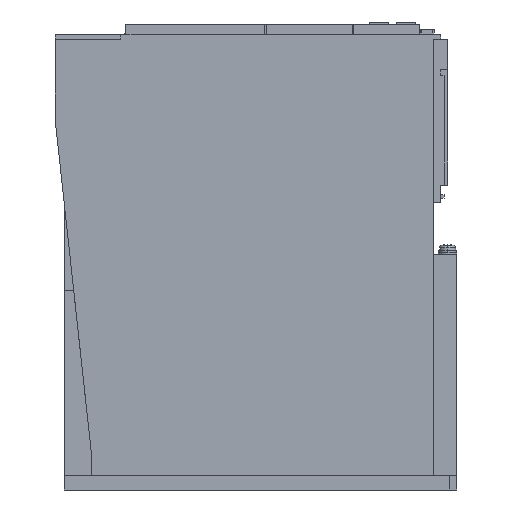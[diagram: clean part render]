
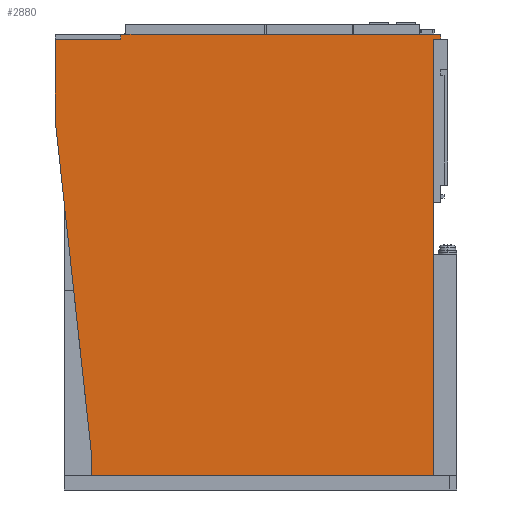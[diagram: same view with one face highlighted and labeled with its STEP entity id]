
A CAD part, left-side view. The second image highlights one B-rep face of the part: STEP entity #2880.
In plain terms, the highlighted planar face has unit normal (-1, 0, 0).
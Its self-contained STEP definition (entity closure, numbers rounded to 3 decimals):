
#1120=DIRECTION('',(0.,-1.,0.));
#1121=VECTOR('',#1120,146.5);
#1122=CARTESIAN_POINT('',(-45.,67.5,0.));
#1123=LINE('',#1122,#1121);
#1239=DIRECTION('',(0.,-1.,0.));
#1240=VECTOR('',#1239,28.2);
#1241=CARTESIAN_POINT('',(-45.,83.,186.9));
#1242=LINE('',#1241,#1240);
#1246=DIRECTION('',(0.,0.,-1.));
#1247=VECTOR('',#1246,2.1);
#1248=CARTESIAN_POINT('',(-45.,54.8,189.));
#1249=LINE('',#1248,#1247);
#1253=DIRECTION('',(0.,-1.,0.));
#1254=VECTOR('',#1253,136.8);
#1255=CARTESIAN_POINT('',(-45.,54.8,189.));
#1256=LINE('',#1255,#1254);
#1260=DIRECTION('',(0.,0.,1.));
#1261=VECTOR('',#1260,10.);
#1262=CARTESIAN_POINT('',(-45.,67.5,0.));
#1263=LINE('',#1262,#1261);
#1267=DIRECTION('',(0.,0.108,0.994));
#1268=VECTOR('',#1267,106.482);
#1269=CARTESIAN_POINT('',(-45.,67.5,10.));
#1270=LINE('',#1269,#1268);
#1274=DIRECTION('',(0.,-0.108,-0.994));
#1275=VECTOR('',#1274,37.057);
#1276=CARTESIAN_POINT('',(-45.,83.,152.7));
#1277=LINE('',#1276,#1275);
#1281=DIRECTION('',(0.,0.,-1.));
#1282=VECTOR('',#1281,34.2);
#1283=CARTESIAN_POINT('',(-45.,83.,186.9));
#1284=LINE('',#1283,#1282);
#2100=DIRECTION('',(0.,0.,1.));
#2101=VECTOR('',#2100,187.);
#2102=CARTESIAN_POINT('',(-45.,-79.,0.));
#2103=LINE('',#2102,#2101);
#2107=DIRECTION('',(0.,-1.,0.));
#2108=VECTOR('',#2107,3.);
#2109=CARTESIAN_POINT('',(-45.,-79.,187.));
#2110=LINE('',#2109,#2108);
#2240=DIRECTION('',(0.,0.,-1.));
#2241=VECTOR('',#2240,2.);
#2242=CARTESIAN_POINT('',(-45.,-82.,189.));
#2243=LINE('',#2242,#2241);
#2485=CARTESIAN_POINT('',(-45.,-79.,0.));
#2487=VERTEX_POINT('',#2485);
#2489=CARTESIAN_POINT('',(-45.,67.5,0.));
#2490=CARTESIAN_POINT('',(-45.,67.5,10.));
#2491=VERTEX_POINT('',#2489);
#2492=VERTEX_POINT('',#2490);
#2493=CARTESIAN_POINT('',(-45.,79.,115.859));
#2494=VERTEX_POINT('',#2493);
#2505=CARTESIAN_POINT('',(-45.,54.8,189.));
#2507=VERTEX_POINT('',#2505);
#2509=CARTESIAN_POINT('',(-45.,83.,186.9));
#2510=CARTESIAN_POINT('',(-45.,54.8,186.9));
#2511=VERTEX_POINT('',#2509);
#2512=VERTEX_POINT('',#2510);
#2529=CARTESIAN_POINT('',(-45.,83.,152.7));
#2530=VERTEX_POINT('',#2529);
#2659=CARTESIAN_POINT('',(-45.,-82.,189.));
#2660=CARTESIAN_POINT('',(-45.,-82.,187.));
#2661=VERTEX_POINT('',#2659);
#2662=VERTEX_POINT('',#2660);
#2663=CARTESIAN_POINT('',(-45.,-79.,187.));
#2665=VERTEX_POINT('',#2663);
#2853=CARTESIAN_POINT('',(-45.,79.,0.));
#2854=DIRECTION('',(-1.,0.,0.));
#2855=DIRECTION('',(0.,-1.,0.));
#2856=AXIS2_PLACEMENT_3D('',#2853,#2854,#2855);
#2857=PLANE('',#2856);
#2858=ORIENTED_EDGE('',*,*,#2835,.T.);
#2860=ORIENTED_EDGE('',*,*,#2859,.F.);
#2862=ORIENTED_EDGE('',*,*,#2861,.T.);
#2864=ORIENTED_EDGE('',*,*,#2863,.T.);
#2866=ORIENTED_EDGE('',*,*,#2865,.F.);
#2868=ORIENTED_EDGE('',*,*,#2867,.F.);
#2869=ORIENTED_EDGE('',*,*,#2754,.F.);
#2871=ORIENTED_EDGE('',*,*,#2870,.T.);
#2873=ORIENTED_EDGE('',*,*,#2872,.T.);
#2875=ORIENTED_EDGE('',*,*,#2874,.F.);
#2877=ORIENTED_EDGE('',*,*,#2876,.F.);
#2878=EDGE_LOOP('',(#2858,#2860,#2862,#2864,#2866,#2868,#2869,#2871,#2873,#2875,
#2877));
#2879=FACE_OUTER_BOUND('',#2878,.F.);
#2754=EDGE_CURVE('',#2491,#2487,#1123,.T.);
#2835=EDGE_CURVE('',#2511,#2512,#1242,.T.);
#2859=EDGE_CURVE('',#2507,#2512,#1249,.T.);
#2861=EDGE_CURVE('',#2507,#2661,#1256,.T.);
#2863=EDGE_CURVE('',#2661,#2662,#2243,.T.);
#2865=EDGE_CURVE('',#2665,#2662,#2110,.T.);
#2867=EDGE_CURVE('',#2487,#2665,#2103,.T.);
#2870=EDGE_CURVE('',#2491,#2492,#1263,.T.);
#2872=EDGE_CURVE('',#2492,#2494,#1270,.T.);
#2874=EDGE_CURVE('',#2530,#2494,#1277,.T.);
#2876=EDGE_CURVE('',#2511,#2530,#1284,.T.);
#2880=ADVANCED_FACE('',(#2879),#2857,.T.);
